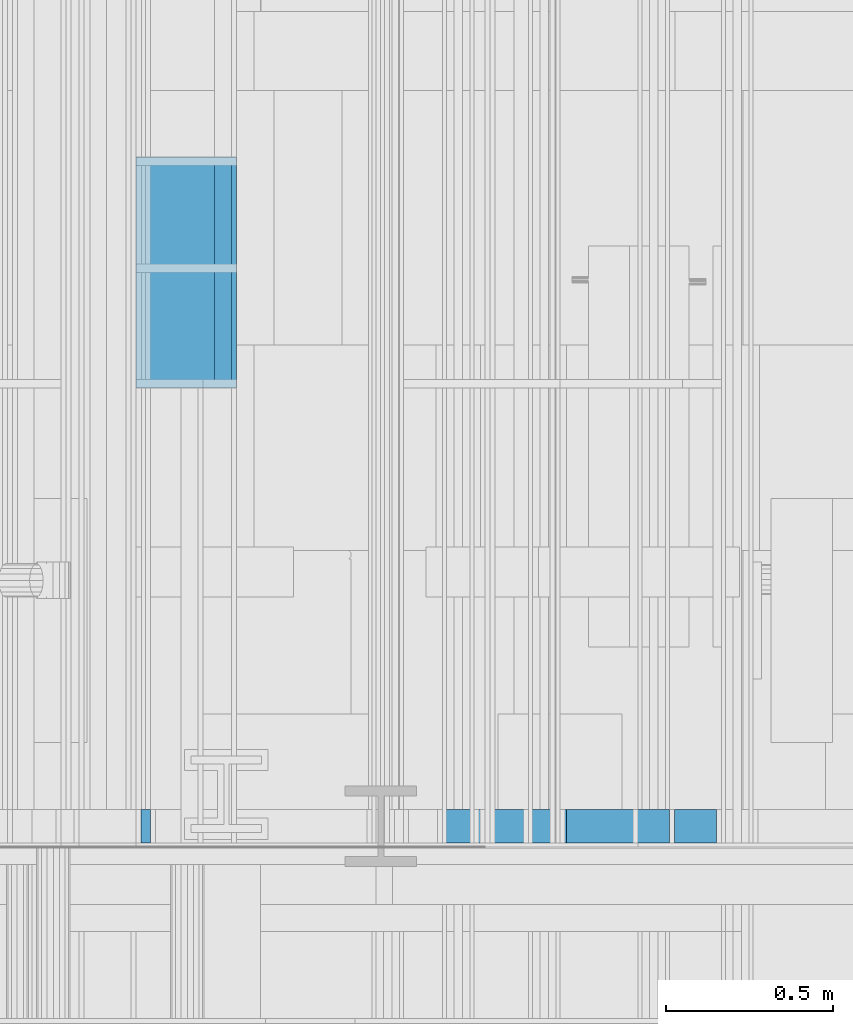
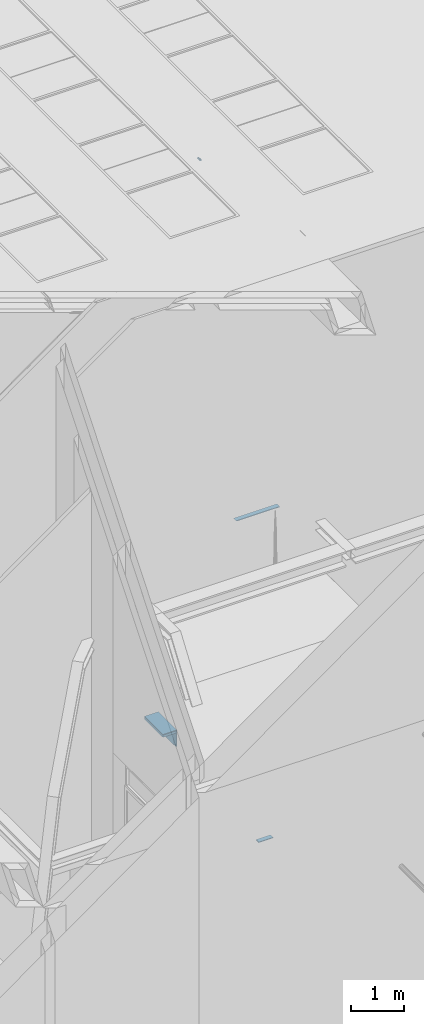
# One storey, part 222 of 583: 7 building element parts, 5 elements without a shape of their own.
"""IFC2X3 building model written with IfcOpenShell, lengths in metres."""

from ifc_helpers import new_model, entity, si_unit, converted_unit, derived_unit, money_unit, direction, frame, frame_2d, origin_with_axes, place, context, subcontext, project, spatial, polyline, rectangle, outline, extrude, material, type_object, element, aggregate, save


model = new_model("IFC2X3")

# Units and contexts
model_context = context("Model", 3, precision=1e-05, world=origin_with_axes(), true_north=direction((0.0, 1.0)))
body_context = subcontext(model_context, "Body", "Model", "MODEL_VIEW", scale=1.0)
ifc_project = project(units=[si_unit("LENGTHUNIT", "METRE"), si_unit("AREAUNIT", "SQUARE_METRE"), si_unit("VOLUMEUNIT", "CUBIC_METRE"), si_unit("ABSORBEDDOSEUNIT", "GRAY"), si_unit("AMOUNTOFSUBSTANCEUNIT", "MOLE"), si_unit("DOSEEQUIVALENTUNIT", "SIEVERT"), si_unit("ELECTRICCAPACITANCEUNIT", "FARAD"), si_unit("ELECTRICCHARGEUNIT", "COULOMB"), si_unit("ELECTRICCONDUCTANCEUNIT", "SIEMENS"), si_unit("ELECTRICCURRENTUNIT", "AMPERE"), si_unit("ELECTRICRESISTANCEUNIT", "OHM"), si_unit("ELECTRICVOLTAGEUNIT", "VOLT"), si_unit("ENERGYUNIT", "JOULE"), si_unit("FORCEUNIT", "NEWTON"), si_unit("FREQUENCYUNIT", "HERTZ"), si_unit("ILLUMINANCEUNIT", "LUX"), si_unit("INDUCTANCEUNIT", "HENRY"), si_unit("LUMINOUSFLUXUNIT", "LUMEN"), si_unit("LUMINOUSINTENSITYUNIT", "CANDELA"), si_unit("MAGNETICFLUXDENSITYUNIT", "TESLA"), si_unit("MAGNETICFLUXUNIT", "WEBER"), si_unit("MASSUNIT", "GRAM"), converted_unit("PLANEANGLEUNIT", "degree", entity("IfcReal", 0.0174532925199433), si_unit("PLANEANGLEUNIT", "RADIAN"), dimensions=[0, 0, 0, 0, 0, 0, 0]), si_unit("POWERUNIT", "WATT"), si_unit("PRESSUREUNIT", "PASCAL"), si_unit("RADIOACTIVITYUNIT", "BECQUEREL"), si_unit("SOLIDANGLEUNIT", "STERADIAN"), si_unit("THERMODYNAMICTEMPERATUREUNIT", "KELVIN"), si_unit("TIMEUNIT", "SECOND"), derived_unit("ACCELERATIONUNIT", [(si_unit("LENGTHUNIT", "METRE"), 1), (si_unit("TIMEUNIT", "SECOND"), -2)]), derived_unit("ANGULARVELOCITYUNIT", [(converted_unit("PLANEANGLEUNIT", "degree", entity("IfcReal", 0.0174532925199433), si_unit("PLANEANGLEUNIT", "RADIAN"), dimensions=[0, 0, 0, 0, 0, 0, 0]), 1), (si_unit("TIMEUNIT", "SECOND"), -1)]), derived_unit("CURVATUREUNIT", [(converted_unit("PLANEANGLEUNIT", "degree", entity("IfcReal", 0.0174532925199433), si_unit("PLANEANGLEUNIT", "RADIAN"), dimensions=[0, 0, 0, 0, 0, 0, 0]), 1), (si_unit("LENGTHUNIT", "METRE"), -1)]), derived_unit("DYNAMICVISCOSITYUNIT", [(si_unit("PRESSUREUNIT", "PASCAL"), 1), (si_unit("TIMEUNIT", "SECOND"), 1)]), derived_unit("HEATFLUXDENSITYUNIT", [(si_unit("POWERUNIT", "WATT"), 1), (si_unit("LENGTHUNIT", "METRE"), -2)]), derived_unit("HEATINGVALUEUNIT", [(si_unit("ENERGYUNIT", "JOULE"), 1), (si_unit("MASSUNIT", "GRAM"), -1)]), derived_unit("INTEGERCOUNTRATEUNIT", [(si_unit("TIMEUNIT", "SECOND"), -1)]), derived_unit("IONCONCENTRATIONUNIT", [(si_unit("MASSUNIT", "GRAM"), 1), (si_unit("VOLUMEUNIT", "CUBIC_METRE"), -1)]), derived_unit("ISOTHERMALMOISTURECAPACITYUNIT", [(si_unit("VOLUMEUNIT", "CUBIC_METRE"), 1), (si_unit("MASSUNIT", "GRAM"), -1)]), derived_unit("KINEMATICVISCOSITYUNIT", [(si_unit("AREAUNIT", "SQUARE_METRE"), 1), (si_unit("TIMEUNIT", "SECOND"), -1)]), derived_unit("LINEARFORCEUNIT", [(si_unit("FORCEUNIT", "NEWTON"), 1), (si_unit("LENGTHUNIT", "METRE"), -1)]), derived_unit("LINEARMOMENTUNIT", [(si_unit("FORCEUNIT", "NEWTON"), 1), (si_unit("LENGTHUNIT", "METRE"), -1)]), derived_unit("LINEARSTIFFNESSUNIT", [(si_unit("FORCEUNIT", "NEWTON"), 1), (si_unit("LENGTHUNIT", "METRE"), -1)]), derived_unit("LINEARVELOCITYUNIT", [(si_unit("LENGTHUNIT", "METRE"), 1), (si_unit("TIMEUNIT", "SECOND"), -1)]), derived_unit("LUMINOUSINTENSITYDISTRIBUTIONUNIT", [(si_unit("LUMINOUSINTENSITYUNIT", "CANDELA"), 1), (si_unit("LUMINOUSFLUXUNIT", "LUMEN"), -1)]), derived_unit("MASSDENSITYUNIT", [(si_unit("MASSUNIT", "GRAM"), 1), (si_unit("VOLUMEUNIT", "CUBIC_METRE"), -1)]), derived_unit("MASSFLOWRATEUNIT", [(si_unit("MASSUNIT", "GRAM"), 1), (si_unit("TIMEUNIT", "SECOND"), -1)]), derived_unit("MASSPERLENGTHUNIT", [(si_unit("MASSUNIT", "GRAM"), 1), (si_unit("LENGTHUNIT", "METRE"), -1)]), derived_unit("MODULUSOFELASTICITYUNIT", [(si_unit("FORCEUNIT", "NEWTON"), 1), (si_unit("AREAUNIT", "SQUARE_METRE"), -1)]), derived_unit("MODULUSOFLINEARSUBGRADEREACTIONUNIT", [(si_unit("FORCEUNIT", "NEWTON"), 1), (si_unit("LENGTHUNIT", "METRE"), -2)]), derived_unit("MODULUSOFROTATIONALSUBGRADEREACTIONUNIT", [(si_unit("FORCEUNIT", "NEWTON"), 1), (si_unit("LENGTHUNIT", "METRE"), 1)]), derived_unit("MODULUSOFSUBGRADEREACTIONUNIT", [(si_unit("FORCEUNIT", "NEWTON"), 1), (si_unit("VOLUMEUNIT", "CUBIC_METRE"), -1)]), derived_unit("MOISTUREDIFFUSIVITYUNIT", [(si_unit("VOLUMEUNIT", "CUBIC_METRE"), 1), (si_unit("TIMEUNIT", "SECOND"), -1)]), derived_unit("MOLECULARWEIGHTUNIT", [(si_unit("MASSUNIT", "GRAM"), 1), (si_unit("AMOUNTOFSUBSTANCEUNIT", "MOLE"), -1)]), derived_unit("PLANARFORCEUNIT", [(si_unit("FORCEUNIT", "NEWTON"), 1), (si_unit("LENGTHUNIT", "METRE"), -2)]), derived_unit("ROTATIONALFREQUENCYUNIT", [(si_unit("TIMEUNIT", "SECOND"), -1)]), derived_unit("ROTATIONALMASSUNIT", [(si_unit("MASSUNIT", "GRAM"), 1), (si_unit("LENGTHUNIT", "METRE"), 2)]), derived_unit("ROTATIONALSTIFFNESSUNIT", [(si_unit("FORCEUNIT", "NEWTON"), 1), (si_unit("LENGTHUNIT", "METRE"), 1), (converted_unit("PLANEANGLEUNIT", "degree", entity("IfcReal", 0.0174532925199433), si_unit("PLANEANGLEUNIT", "RADIAN"), dimensions=[0, 0, 0, 0, 0, 0, 0]), -1)]), derived_unit("SECTIONAREAINTEGRALUNIT", [(si_unit("LENGTHUNIT", "METRE"), 5)]), derived_unit("SECTIONMODULUSUNIT", [(si_unit("LENGTHUNIT", "METRE"), 3)]), derived_unit("SHEARMODULUSUNIT", [(si_unit("FORCEUNIT", "NEWTON"), 1), (si_unit("AREAUNIT", "SQUARE_METRE"), -1)]), derived_unit("SOUNDPOWERUNIT", [(si_unit("ENERGYUNIT", "JOULE"), 1), (si_unit("TIMEUNIT", "SECOND"), -1)]), derived_unit("SPECIFICHEATCAPACITYUNIT", [(si_unit("FORCEUNIT", "NEWTON"), 1), (si_unit("MASSUNIT", "GRAM"), -1), (si_unit("THERMODYNAMICTEMPERATUREUNIT", "KELVIN"), -1)]), derived_unit("TEMPERATUREGRADIENTUNIT", [(si_unit("THERMODYNAMICTEMPERATUREUNIT", "KELVIN"), 1), (si_unit("LENGTHUNIT", "METRE"), -1)]), derived_unit("THERMALADMITTANCEUNIT", [(si_unit("POWERUNIT", "WATT"), 1), (si_unit("AREAUNIT", "SQUARE_METRE"), -1), (si_unit("THERMODYNAMICTEMPERATUREUNIT", "KELVIN"), -1)]), derived_unit("THERMALCONDUCTANCEUNIT", [(si_unit("POWERUNIT", "WATT"), 1), (si_unit("LENGTHUNIT", "METRE"), -1), (si_unit("THERMODYNAMICTEMPERATUREUNIT", "KELVIN"), -1)]), derived_unit("THERMALEXPANSIONCOEFFICIENTUNIT", [(si_unit("THERMODYNAMICTEMPERATUREUNIT", "KELVIN"), -1)]), derived_unit("THERMALRESISTANCEUNIT", [(si_unit("AREAUNIT", "SQUARE_METRE"), 1), (si_unit("POWERUNIT", "WATT"), -1)]), derived_unit("THERMALTRANSMITTANCEUNIT", [(si_unit("POWERUNIT", "WATT"), 1), (si_unit("AREAUNIT", "SQUARE_METRE"), -1), (si_unit("THERMODYNAMICTEMPERATUREUNIT", "KELVIN"), -1)]), derived_unit("TORQUEUNIT", [(si_unit("FORCEUNIT", "NEWTON"), 1), (si_unit("LENGTHUNIT", "METRE"), 1)]), derived_unit("VAPORPERMEABILITYUNIT", [(si_unit("MASSUNIT", "GRAM"), 1), (si_unit("TIMEUNIT", "SECOND"), -1)]), derived_unit("VOLUMETRICFLOWRATEUNIT", [(si_unit("VOLUMEUNIT", "CUBIC_METRE"), 1), (si_unit("TIMEUNIT", "SECOND"), -1)]), derived_unit("WARPINGCONSTANTUNIT", [(si_unit("LENGTHUNIT", "METRE"), 6)]), derived_unit("WARPINGMOMENTUNIT", [(si_unit("FORCEUNIT", "NEWTON"), 1), (si_unit("LENGTHUNIT", "METRE"), 2)]), money_unit("GBP")], contexts=[model_context])

# Site, building, storey
site_placement = place(None, origin_with_axes())
site = spatial("IfcSite", under=ifc_project, at=site_placement, Name="Site", CompositionType="ELEMENT")
building_placement = place(site_placement, origin_with_axes())
building = spatial("IfcBuilding", under=site, at=building_placement, Name="Building01", CompositionType="ELEMENT")
storey_placement = place(building_placement, frame((0.0, 0.0, 20.78), z_axis=(0.0, 0.0, 1.0), x_axis=(1.0, 0.0, 0.0)))
storey = spatial("IfcBuildingStorey", under=building, at=storey_placement, Name="RL", CompositionType="ELEMENT", Elevation=20.78)

# Wall, building element parts
wall_type_1 = type_object("IfcWallType", Name="SHE_A-Walls_Type05c_PreWallShell_65mm", PredefinedType="NOTDEFINED")
wall_1_placement = place(storey_placement, frame((9.055, 10.015, -8.626129), z_axis=(0.0, 1.0, 0.0), x_axis=(0.0, 0.0, 1.0)))
wall_1 = element("IfcWall", 1, at=wall_1_placement, inside=storey, type_object=wall_type_1, Name="5C", ObjectType="SHE_A-Walls_Type05c_PreWallShell_65mm")
ifc_material_1 = material(Name="A_BSUK_OpeningsClearance")
placement_1 = place(wall_1_placement, origin_with_axes())
building_element_part_1 = element("IfcBuildingElementPart", 2, at=placement_1, material=ifc_material_1, Name="1", context=body_context, shape_type="SweptSolid", body=[
    extrude(rectangle(XDim=0.259714, YDim=0.05, at=frame_2d((0.129857, 0.025), x_axis=(-1.0, 0.0))), origin_with_axes(), (0.0, 0.0, 1.0), 0.69),
])
ifc_material_2 = material(Name="A_BSUK_Walls_Timber")
building_element_part_2 = element("IfcBuildingElementPart", 3, at=placement_1, material=ifc_material_2, Name="2", context=body_context, shape_type="SweptSolid", body=[
    extrude(rectangle(XDim=0.359714, YDim=0.015, at=frame_2d((0.129857, 0.0575), x_axis=(-1.0, 0.0))), origin_with_axes(), (0.0, 0.0, 1.0), 0.69),
])
aggregate(wall_1, [building_element_part_1, building_element_part_2])

wall_2_placement = place(storey_placement, frame((9.105, 10.015, -8.366415), z_axis=(0.0, 1.0, 0.0), x_axis=(-1.0, 0.0, 0.0)))
wall_2 = element("IfcWall", 4, at=wall_2_placement, inside=storey, type_object=wall_type_1, Name="5C", ObjectType="SHE_A-Walls_Type05c_PreWallShell_65mm")
placement_2 = place(wall_2_placement, origin_with_axes())
building_element_part_3 = element("IfcBuildingElementPart", 5, at=placement_2, material=ifc_material_1, Name="1", context=body_context, shape_type="SweptSolid", body=[
    extrude(rectangle(XDim=0.285, YDim=0.05, at=frame_2d((0.1425, 0.025), x_axis=(-1.0, 0.0))), origin_with_axes(), (0.0, 0.0, 1.0), 0.69),
])
building_element_part_4 = element("IfcBuildingElementPart", 6, at=placement_2, material=ifc_material_2, Name="2", context=body_context, shape_type="SweptSolid", body=[
    extrude(rectangle(XDim=0.3, YDim=0.015, at=frame_2d((0.135, 0.0575), x_axis=(-1.0, 0.0))), origin_with_axes(), (0.0, 0.0, 1.0), 0.69),
])
aggregate(wall_2, [building_element_part_3, building_element_part_4])

# Wall, building element part
wall_type_2 = type_object("IfcWallType", Name="SHE_A-Walls_Type05a_Partition_95mm_tall", PredefinedType="NOTDEFINED")
wall_3_placement = place(storey_placement, frame((9.585, 8.64, -2.84), z_axis=(0.0, 1.0, 0.0), x_axis=(1.0, 0.0, 0.0)))
wall_3 = element("IfcWall", 7, at=wall_3_placement, inside=storey, type_object=wall_type_2, Name="5A", ObjectType="SHE_A-Walls_Type05a_Partition_95mm_tall")
building_element_part_5_placement = place(wall_3_placement, origin_with_axes())
building_element_part_5 = element("IfcBuildingElementPart", 8, at=building_element_part_5_placement, material=ifc_material_2, Name="2", context=body_context, shape_type="SweptSolid", body=[
    extrude(outline(polyline([(0.97, 0.05), (0.05, 0.05), (0.035, 0.035), (0.97, 0.035), (0.97, 0.05)])), frame((0.0, 0.0, 0.015), z_axis=(0.0, 0.0, 1.0), x_axis=(1.0, 0.0, 0.0)), (0.0, 0.0, 1.0), 0.1),
])
aggregate(wall_3, [building_element_part_5])

wall_4_placement = place(storey_placement, frame((8.82, 8.64, -10.326129), z_axis=(0.0, 1.0, 0.0), x_axis=(1.0, 0.0, 0.0)))
wall_4 = element("IfcWall", 9, at=wall_4_placement, inside=storey, type_object=wall_type_2, Name="5A", ObjectType="SHE_A-Walls_Type05a_Partition_95mm_tall")
building_element_part_6_placement = place(wall_4_placement, origin_with_axes())
building_element_part_6 = element("IfcBuildingElementPart", 10, at=building_element_part_6_placement, material=ifc_material_2, Name="4", context=body_context, shape_type="SweptSolid", body=[
    extrude(outline(polyline([(1.61, 0.075), (1.286537, 0.075), (1.286537, 0.06), (1.595, 0.06), (1.61, 0.075)])), frame((0.0, 0.0, 0.015), z_axis=(0.0, 0.0, 1.0), x_axis=(1.0, 0.0, 0.0)), (0.0, 0.0, 1.0), 0.1),
])
aggregate(wall_4, [building_element_part_6])

wall_type_3 = type_object("IfcWallType", Name="SHE_A-Walls_Type06f_ExternalWallInsulation_48+15mm", PredefinedType="NOTDEFINED")
wall_5_placement = place(storey_placement, frame((8.8, 8.64, 5.7), z_axis=(0.0, 1.0, 0.0), x_axis=(-1.0, 0.0, 0.0)))
wall_5 = element("IfcWall", 11, at=wall_5_placement, inside=storey, type_object=wall_type_3, Name="6F", ObjectType="SHE_A-Walls_Type06f_ExternalWallInsulation_48+15mm")
building_element_part_7_placement = place(wall_5_placement, origin_with_axes())
building_element_part_7 = element("IfcBuildingElementPart", 12, at=building_element_part_7_placement, material=ifc_material_2, Name="2", context=body_context, shape_type="SweptSolid", body=[
    extrude(outline(polyline([(-0.063, -0.063), (-0.078, -0.078), (-0.035, -0.078), (-0.035, -0.063), (-0.063, -0.063)])), frame((0.0, 0.0, 0.015), z_axis=(0.0, 0.0, 1.0), x_axis=(1.0, 0.0, 0.0)), (0.0, 0.0, 1.0), 0.1),
])
aggregate(wall_5, [building_element_part_7])

save(model, "model.ifc")
